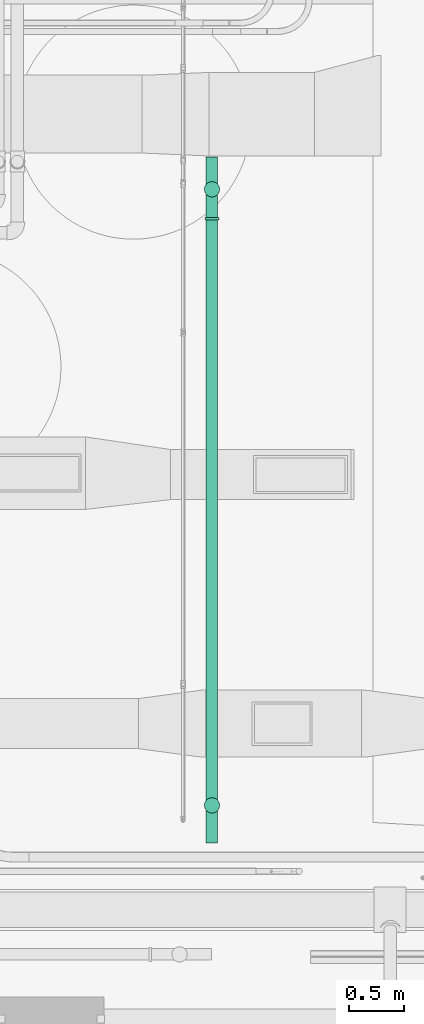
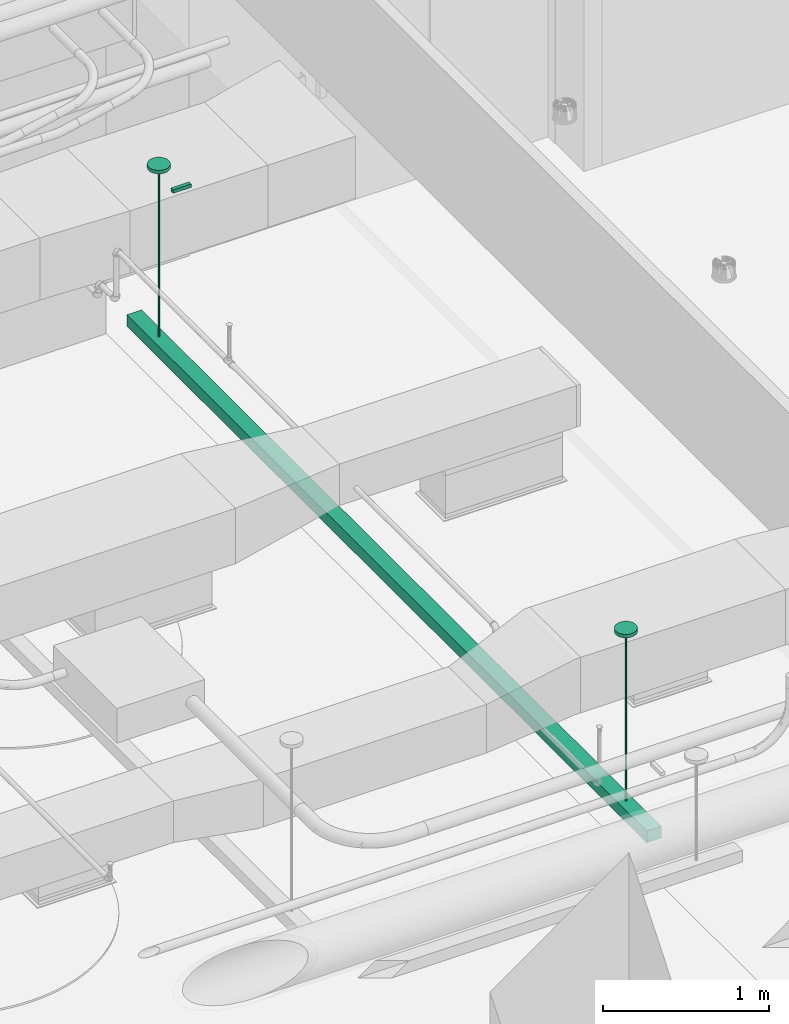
# One storey, part 30 of 108: 1 light fixture.
"""IFC4 building model written with IfcOpenShell, lengths in feet."""

from ifc_helpers import new_model, entity, si_unit, converted_unit, derived_unit, direction, frame, origin, place, context, subcontext, project, spatial, source, transform, mapped, material, type_object, type_shapes, element, save


model = new_model("IFC4")

# Units and contexts
model_context = context("Model", 3, precision=0.0001, world=origin(), true_north=direction((6.12303176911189e-17, 1.0)))
body_context = subcontext(model_context, "Body", "Model", "MODEL_VIEW")
ifc_project = project(units=[converted_unit("LENGTHUNIT", "FOOT", entity("IfcRatioMeasure", 0.3048), si_unit("LENGTHUNIT", "METRE"), dimensions=[1, 0, 0, 0, 0, 0, 0]), converted_unit("AREAUNIT", "SQUARE FOOT", entity("IfcRatioMeasure", 0.09290304), si_unit("AREAUNIT", "SQUARE_METRE"), dimensions=[2, 0, 0, 0, 0, 0, 0]), converted_unit("VOLUMEUNIT", "CUBIC FOOT", entity("IfcRatioMeasure", 0.028316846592), si_unit("VOLUMEUNIT", "CUBIC_METRE"), dimensions=[3, 0, 0, 0, 0, 0, 0]), converted_unit("PLANEANGLEUNIT", "DEGREE", entity("IfcRatioMeasure", 0.0174532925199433), si_unit("PLANEANGLEUNIT", "RADIAN"), dimensions=[0, 0, 0, 0, 0, 0, 0]), si_unit("MASSUNIT", "GRAM", prefix="KILO"), derived_unit("MASSDENSITYUNIT", [(si_unit("MASSUNIT", "GRAM", prefix="KILO"), 1), (si_unit("LENGTHUNIT", "METRE"), -3)]), si_unit("TIMEUNIT", "SECOND"), si_unit("FREQUENCYUNIT", "HERTZ"), si_unit("THERMODYNAMICTEMPERATUREUNIT", "DEGREE_CELSIUS"), derived_unit("THERMALTRANSMITTANCEUNIT", [(si_unit("MASSUNIT", "GRAM", prefix="KILO"), 1), (si_unit("THERMODYNAMICTEMPERATUREUNIT", "KELVIN"), -1), (si_unit("TIMEUNIT", "SECOND"), -3)]), derived_unit("VOLUMETRICFLOWRATEUNIT", [(si_unit("LENGTHUNIT", "METRE"), 3), (si_unit("TIMEUNIT", "SECOND"), -1)]), si_unit("ELECTRICCURRENTUNIT", "AMPERE"), si_unit("ELECTRICVOLTAGEUNIT", "VOLT"), si_unit("POWERUNIT", "WATT"), si_unit("FORCEUNIT", "NEWTON"), si_unit("ILLUMINANCEUNIT", "LUX"), si_unit("LUMINOUSFLUXUNIT", "LUMEN"), si_unit("LUMINOUSINTENSITYUNIT", "CANDELA"), derived_unit("USERDEFINED", [(si_unit("MASSUNIT", "GRAM", prefix="KILO"), -1), (si_unit("LENGTHUNIT", "METRE"), -2), (si_unit("TIMEUNIT", "SECOND"), 3), (si_unit("LUMINOUSFLUXUNIT", "LUMEN"), 1)]), derived_unit("LINEARVELOCITYUNIT", [(si_unit("LENGTHUNIT", "METRE"), 1), (si_unit("TIMEUNIT", "SECOND"), -1)]), si_unit("PRESSUREUNIT", "PASCAL"), derived_unit("USERDEFINED", [(si_unit("LENGTHUNIT", "METRE"), -2), (si_unit("MASSUNIT", "GRAM", prefix="KILO"), 1), (si_unit("TIMEUNIT", "SECOND"), -2)])], contexts=[model_context])

# Site, building, storey
site_placement = place(None, origin())
site = spatial("IfcSite", under=ifc_project, at=site_placement, Name="Default", CompositionType="ELEMENT")
building_placement = place(site_placement, origin())
building = spatial("IfcBuilding", under=site, at=building_placement, CompositionType="ELEMENT")
storey_placement = place(building_placement, frame((0.0, 0.0, 168.0)))
storey = spatial("IfcBuildingStorey", under=building, at=storey_placement, Name="Level 15", CompositionType="ELEMENT", Elevation=168.0)

# Light fixture
ifc_material = material(Name="Lighting Proxy", Category="System")
light_fixture_type = type_object("IfcLightFixtureType", Name="20' 8\"", PredefinedType="NOTDEFINED", material=ifc_material)
cartesian_point_1 = entity("IfcCartesianPoint", [0.891666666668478, 0.23440049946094, 4.43794169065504])
vertex_point_1 = entity("IfcVertexPoint", cartesian_point_1)
cartesian_point_2 = entity("IfcCartesianPoint", [1.35000000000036, 0.23440049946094, 4.43794169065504])
vertex_point_2 = entity("IfcVertexPoint", cartesian_point_2)
cartesian_point_3 = entity("IfcCartesianPoint", [1.12083333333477, 0.23440049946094, 4.43794169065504])
ifc_direction_1 = entity("IfcDirection", [0.0, 0.0, -1.0])
ifc_direction_2 = entity("IfcDirection", [1.0, 0.0, 0.0])
edge_curve_1 = entity("IfcEdgeCurve", vertex_point_1, vertex_point_2, entity("IfcTrimmedCurve", entity("IfcCircle", entity("IfcAxis2Placement3D", cartesian_point_3, ifc_direction_1, ifc_direction_2), 0.22916666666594), [cartesian_point_1], [cartesian_point_2], True, "CARTESIAN"), True)
cartesian_point_4 = entity("IfcCartesianPoint", [1.35000000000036, 0.234400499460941, 4.35387752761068])
vertex_point_3 = entity("IfcVertexPoint", cartesian_point_4)
edge_curve_2 = entity("IfcEdgeCurve", vertex_point_2, vertex_point_3, entity("IfcTrimmedCurve", entity("IfcLine", cartesian_point_2, entity("IfcVector", ifc_direction_1, 1.0)), [cartesian_point_2], [cartesian_point_4], True, "CARTESIAN"), True)
cartesian_point_5 = entity("IfcCartesianPoint", [0.891666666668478, 0.234400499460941, 4.35387752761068])
vertex_point_4 = entity("IfcVertexPoint", cartesian_point_5)
cartesian_point_6 = entity("IfcCartesianPoint", [1.12083333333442, 0.234400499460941, 4.35387752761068])
ifc_direction_3 = entity("IfcDirection", [0.0, 0.0, 1.0])
edge_curve_3 = entity("IfcEdgeCurve", vertex_point_3, vertex_point_4, entity("IfcTrimmedCurve", entity("IfcCircle", entity("IfcAxis2Placement3D", cartesian_point_6, ifc_direction_3, ifc_direction_2), 0.22916666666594), [cartesian_point_4], [cartesian_point_5], True, "CARTESIAN"), True)
edge_curve_4 = entity("IfcEdgeCurve", vertex_point_4, vertex_point_1, entity("IfcTrimmedCurve", entity("IfcLine", cartesian_point_5, entity("IfcVector", ifc_direction_3, 1.0)), [cartesian_point_5], [cartesian_point_1], True, "CARTESIAN"), True)
cartesian_point_7 = entity("IfcCartesianPoint", [1.12083333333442, 0.234400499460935, 4.75044169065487])
edge_curve_5 = entity("IfcEdgeCurve", vertex_point_2, vertex_point_1, entity("IfcTrimmedCurve", entity("IfcCircle", entity("IfcAxis2Placement3D", cartesian_point_3, ifc_direction_1, ifc_direction_2), 0.22916666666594), [cartesian_point_2], [cartesian_point_1], True, "CARTESIAN"), True)
edge_curve_6 = entity("IfcEdgeCurve", vertex_point_4, vertex_point_3, entity("IfcTrimmedCurve", entity("IfcCircle", entity("IfcAxis2Placement3D", cartesian_point_6, ifc_direction_3, ifc_direction_2), 0.22916666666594), [cartesian_point_5], [cartesian_point_4], True, "CARTESIAN"), True)
cartesian_point_8 = entity("IfcCartesianPoint", [1.14166666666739, 0.234400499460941, 4.35387752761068])
vertex_point_5 = entity("IfcVertexPoint", cartesian_point_8)
ifc_direction_4 = entity("IfcDirection", [-1.0, 0.0, 0.0])
edge_curve_7 = entity("IfcEdgeCurve", vertex_point_3, vertex_point_5, entity("IfcTrimmedCurve", entity("IfcLine", cartesian_point_4, entity("IfcVector", ifc_direction_4, 1.0)), [cartesian_point_4], [cartesian_point_8], True, "CARTESIAN"), True)
cartesian_point_9 = entity("IfcCartesianPoint", [1.10000000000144, 0.234400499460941, 4.35387752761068])
vertex_point_6 = entity("IfcVertexPoint", cartesian_point_9)
edge_curve_8 = entity("IfcEdgeCurve", vertex_point_5, vertex_point_6, entity("IfcTrimmedCurve", entity("IfcCircle", entity("IfcAxis2Placement3D", cartesian_point_6, ifc_direction_3, ifc_direction_2), 0.0208333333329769), [cartesian_point_8], [cartesian_point_9], True, "CARTESIAN"), True)
edge_curve_9 = entity("IfcEdgeCurve", vertex_point_6, vertex_point_4, entity("IfcTrimmedCurve", entity("IfcLine", cartesian_point_9, entity("IfcVector", ifc_direction_4, 1.0)), [cartesian_point_9], [cartesian_point_5], True, "CARTESIAN"), True)
edge_curve_10 = entity("IfcEdgeCurve", vertex_point_6, vertex_point_5, entity("IfcTrimmedCurve", entity("IfcCircle", entity("IfcAxis2Placement3D", cartesian_point_6, ifc_direction_3, ifc_direction_2), 0.0208333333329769), [cartesian_point_9], [cartesian_point_8], True, "CARTESIAN"), True)
cartesian_point_10 = entity("IfcCartesianPoint", [1.14166666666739, 0.234400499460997, 0.281250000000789])
vertex_point_7 = entity("IfcVertexPoint", cartesian_point_10)
edge_curve_11 = entity("IfcEdgeCurve", vertex_point_5, vertex_point_7, entity("IfcTrimmedCurve", entity("IfcLine", cartesian_point_8, entity("IfcVector", ifc_direction_1, 1.0)), [cartesian_point_8], [cartesian_point_10], True, "CARTESIAN"), True)
cartesian_point_11 = entity("IfcCartesianPoint", [1.10000000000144, 0.234400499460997, 0.281250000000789])
vertex_point_8 = entity("IfcVertexPoint", cartesian_point_11)
cartesian_point_12 = entity("IfcCartesianPoint", [1.12083333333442, 0.234400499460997, 0.281250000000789])
edge_curve_12 = entity("IfcEdgeCurve", vertex_point_7, vertex_point_8, entity("IfcTrimmedCurve", entity("IfcCircle", entity("IfcAxis2Placement3D", cartesian_point_12, ifc_direction_3, ifc_direction_2), 0.0208333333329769), [cartesian_point_10], [cartesian_point_11], True, "CARTESIAN"), True)
edge_curve_13 = entity("IfcEdgeCurve", vertex_point_8, vertex_point_6, entity("IfcTrimmedCurve", entity("IfcLine", cartesian_point_11, entity("IfcVector", ifc_direction_3, 1.0)), [cartesian_point_11], [cartesian_point_9], True, "CARTESIAN"), True)
edge_curve_14 = entity("IfcEdgeCurve", vertex_point_8, vertex_point_7, entity("IfcTrimmedCurve", entity("IfcCircle", entity("IfcAxis2Placement3D", cartesian_point_12, ifc_direction_3, ifc_direction_2), 0.0208333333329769), [cartesian_point_11], [cartesian_point_10], True, "CARTESIAN"), True)
vertex_point_9 = entity("IfcVertexPoint", cartesian_point_12)
edge_curve_15 = entity("IfcEdgeCurve", vertex_point_7, vertex_point_9, entity("IfcTrimmedCurve", entity("IfcLine", cartesian_point_10, entity("IfcVector", ifc_direction_4, 1.0)), [cartesian_point_10], [cartesian_point_12], True, "CARTESIAN"), True)
edge_curve_16 = entity("IfcEdgeCurve", vertex_point_9, vertex_point_8, entity("IfcTrimmedCurve", entity("IfcLine", cartesian_point_12, entity("IfcVector", ifc_direction_4, 1.0)), [cartesian_point_12], [cartesian_point_11], True, "CARTESIAN"), True)
vertex_point_10 = entity("IfcVertexPoint", cartesian_point_3)
edge_curve_17 = entity("IfcEdgeCurve", vertex_point_10, vertex_point_2, entity("IfcTrimmedCurve", entity("IfcLine", cartesian_point_3, entity("IfcVector", ifc_direction_2, 1.0)), [cartesian_point_3], [cartesian_point_2], True, "CARTESIAN"), True)
edge_curve_18 = entity("IfcEdgeCurve", vertex_point_1, vertex_point_10, entity("IfcTrimmedCurve", entity("IfcLine", cartesian_point_1, entity("IfcVector", ifc_direction_2, 1.0)), [cartesian_point_1], [cartesian_point_3], True, "CARTESIAN"), True)
cartesian_point_13 = entity("IfcCartesianPoint", [19.7749999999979, 0.23440049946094, 4.43794169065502])
vertex_point_11 = entity("IfcVertexPoint", cartesian_point_13)
cartesian_point_14 = entity("IfcCartesianPoint", [19.3166666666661, 0.23440049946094, 4.43794169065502])
vertex_point_12 = entity("IfcVertexPoint", cartesian_point_14)
cartesian_point_15 = entity("IfcCartesianPoint", [19.5458333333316, 0.23440049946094, 4.43794169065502])
ifc_direction_5 = entity("IfcDirection", [0.0, 0.0, 1.0])
ifc_direction_6 = entity("IfcDirection", [-1.0, 0.0, 0.0])
edge_curve_19 = entity("IfcEdgeCurve", vertex_point_11, vertex_point_12, entity("IfcTrimmedCurve", entity("IfcCircle", entity("IfcAxis2Placement3D", cartesian_point_15, ifc_direction_5, ifc_direction_6), 0.229166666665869), [cartesian_point_13], [cartesian_point_14], True, "CARTESIAN"), True)
vertex_point_13 = entity("IfcVertexPoint", cartesian_point_15)
ifc_direction_7 = entity("IfcDirection", [1.0, 0.0, 0.0])
edge_curve_20 = entity("IfcEdgeCurve", vertex_point_12, vertex_point_13, entity("IfcTrimmedCurve", entity("IfcLine", cartesian_point_14, entity("IfcVector", ifc_direction_7, 1.0)), [cartesian_point_14], [cartesian_point_15], True, "CARTESIAN"), True)
edge_curve_21 = entity("IfcEdgeCurve", vertex_point_13, vertex_point_11, entity("IfcTrimmedCurve", entity("IfcLine", cartesian_point_15, entity("IfcVector", ifc_direction_7, 1.0)), [cartesian_point_15], [cartesian_point_13], True, "CARTESIAN"), True)
edge_curve_22 = entity("IfcEdgeCurve", vertex_point_12, vertex_point_11, entity("IfcTrimmedCurve", entity("IfcCircle", entity("IfcAxis2Placement3D", cartesian_point_15, ifc_direction_5, ifc_direction_6), 0.229166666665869), [cartesian_point_14], [cartesian_point_13], True, "CARTESIAN"), True)
cartesian_point_16 = entity("IfcCartesianPoint", [19.7749999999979, 0.234400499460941, 4.35387752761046])
vertex_point_14 = entity("IfcVertexPoint", cartesian_point_16)
cartesian_point_17 = entity("IfcCartesianPoint", [19.3166666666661, 0.234400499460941, 4.35387752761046])
vertex_point_15 = entity("IfcVertexPoint", cartesian_point_17)
cartesian_point_18 = entity("IfcCartesianPoint", [19.545833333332, 0.234400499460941, 4.35387752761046])
edge_curve_23 = entity("IfcEdgeCurve", vertex_point_14, vertex_point_15, entity("IfcTrimmedCurve", entity("IfcCircle", entity("IfcAxis2Placement3D", cartesian_point_18, ifc_direction_5, ifc_direction_6), 0.229166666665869), [cartesian_point_16], [cartesian_point_17], True, "CARTESIAN"), True)
edge_curve_24 = entity("IfcEdgeCurve", vertex_point_15, vertex_point_12, entity("IfcTrimmedCurve", entity("IfcLine", cartesian_point_17, entity("IfcVector", ifc_direction_5, 1.0)), [cartesian_point_17], [cartesian_point_14], True, "CARTESIAN"), True)
ifc_direction_8 = entity("IfcDirection", [0.0, 0.0, -1.0])
edge_curve_25 = entity("IfcEdgeCurve", vertex_point_11, vertex_point_14, entity("IfcTrimmedCurve", entity("IfcLine", cartesian_point_13, entity("IfcVector", ifc_direction_8, 1.0)), [cartesian_point_13], [cartesian_point_16], True, "CARTESIAN"), True)
cartesian_point_19 = entity("IfcCartesianPoint", [19.545833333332, 0.234400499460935, 4.75044169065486])
edge_curve_26 = entity("IfcEdgeCurve", vertex_point_15, vertex_point_14, entity("IfcTrimmedCurve", entity("IfcCircle", entity("IfcAxis2Placement3D", cartesian_point_18, ifc_direction_5, ifc_direction_6), 0.229166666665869), [cartesian_point_17], [cartesian_point_16], True, "CARTESIAN"), True)
cartesian_point_20 = entity("IfcCartesianPoint", [19.5666666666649, 0.234400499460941, 4.35387752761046])
vertex_point_16 = entity("IfcVertexPoint", cartesian_point_20)
cartesian_point_21 = entity("IfcCartesianPoint", [19.5249999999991, 0.234400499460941, 4.35387752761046])
vertex_point_17 = entity("IfcVertexPoint", cartesian_point_21)
edge_curve_27 = entity("IfcEdgeCurve", vertex_point_16, vertex_point_17, entity("IfcTrimmedCurve", entity("IfcCircle", entity("IfcAxis2Placement3D", cartesian_point_18, ifc_direction_5, ifc_direction_6), 0.0208333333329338), [cartesian_point_20], [cartesian_point_21], True, "CARTESIAN"), True)
edge_curve_28 = entity("IfcEdgeCurve", vertex_point_17, vertex_point_15, entity("IfcTrimmedCurve", entity("IfcLine", cartesian_point_21, entity("IfcVector", ifc_direction_6, 1.0)), [cartesian_point_21], [cartesian_point_17], True, "CARTESIAN"), True)
edge_curve_29 = entity("IfcEdgeCurve", vertex_point_14, vertex_point_16, entity("IfcTrimmedCurve", entity("IfcLine", cartesian_point_16, entity("IfcVector", ifc_direction_6, 1.0)), [cartesian_point_16], [cartesian_point_20], True, "CARTESIAN"), True)
edge_curve_30 = entity("IfcEdgeCurve", vertex_point_17, vertex_point_16, entity("IfcTrimmedCurve", entity("IfcCircle", entity("IfcAxis2Placement3D", cartesian_point_18, ifc_direction_5, ifc_direction_6), 0.0208333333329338), [cartesian_point_21], [cartesian_point_20], True, "CARTESIAN"), True)
cartesian_point_22 = entity("IfcCartesianPoint", [19.5666666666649, 0.234400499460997, 0.281250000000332])
vertex_point_18 = entity("IfcVertexPoint", cartesian_point_22)
cartesian_point_23 = entity("IfcCartesianPoint", [19.5249999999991, 0.234400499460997, 0.281250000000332])
vertex_point_19 = entity("IfcVertexPoint", cartesian_point_23)
cartesian_point_24 = entity("IfcCartesianPoint", [19.5458333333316, 0.234400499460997, 0.281250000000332])
edge_curve_31 = entity("IfcEdgeCurve", vertex_point_18, vertex_point_19, entity("IfcTrimmedCurve", entity("IfcCircle", entity("IfcAxis2Placement3D", cartesian_point_24, ifc_direction_5, ifc_direction_6), 0.0208333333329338), [cartesian_point_22], [cartesian_point_23], True, "CARTESIAN"), True)
edge_curve_32 = entity("IfcEdgeCurve", vertex_point_19, vertex_point_17, entity("IfcTrimmedCurve", entity("IfcLine", cartesian_point_23, entity("IfcVector", ifc_direction_5, 1.0)), [cartesian_point_23], [cartesian_point_21], True, "CARTESIAN"), True)
edge_curve_33 = entity("IfcEdgeCurve", vertex_point_16, vertex_point_18, entity("IfcTrimmedCurve", entity("IfcLine", cartesian_point_20, entity("IfcVector", ifc_direction_8, 1.0)), [cartesian_point_20], [cartesian_point_22], True, "CARTESIAN"), True)
edge_curve_34 = entity("IfcEdgeCurve", vertex_point_19, vertex_point_18, entity("IfcTrimmedCurve", entity("IfcCircle", entity("IfcAxis2Placement3D", cartesian_point_24, ifc_direction_5, ifc_direction_6), 0.0208333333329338), [cartesian_point_23], [cartesian_point_22], True, "CARTESIAN"), True)
vertex_point_20 = entity("IfcVertexPoint", cartesian_point_24)
edge_curve_35 = entity("IfcEdgeCurve", vertex_point_20, vertex_point_19, entity("IfcTrimmedCurve", entity("IfcLine", cartesian_point_24, entity("IfcVector", ifc_direction_6, 1.0)), [cartesian_point_24], [cartesian_point_23], True, "CARTESIAN"), True)
edge_curve_36 = entity("IfcEdgeCurve", vertex_point_18, vertex_point_20, entity("IfcTrimmedCurve", entity("IfcLine", cartesian_point_22, entity("IfcVector", ifc_direction_6, 1.0)), [cartesian_point_22], [cartesian_point_24], True, "CARTESIAN"), True)
cartesian_point_25 = entity("IfcCartesianPoint", [18.7083333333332, 0.0260671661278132, 4.43794169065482])
vertex_point_21 = entity("IfcVertexPoint", cartesian_point_25)
cartesian_point_26 = entity("IfcCartesianPoint", [18.7083333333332, 0.44273383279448, 4.43794169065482])
vertex_point_22 = entity("IfcVertexPoint", cartesian_point_26)
ifc_direction_9 = entity("IfcDirection", [0.0, 1.0, 0.0])
edge_curve_37 = entity("IfcEdgeCurve", vertex_point_21, vertex_point_22, entity("IfcTrimmedCurve", entity("IfcLine", cartesian_point_25, entity("IfcVector", ifc_direction_9, 1.0)), [cartesian_point_25], [cartesian_point_26], True, "CARTESIAN"), True)
cartesian_point_27 = entity("IfcCartesianPoint", [18.6249999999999, 0.44273383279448, 4.43794169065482])
vertex_point_23 = entity("IfcVertexPoint", cartesian_point_27)
ifc_direction_10 = entity("IfcDirection", [-1.0, 0.0, 0.0])
edge_curve_38 = entity("IfcEdgeCurve", vertex_point_22, vertex_point_23, entity("IfcTrimmedCurve", entity("IfcLine", cartesian_point_26, entity("IfcVector", ifc_direction_10, 1.0)), [cartesian_point_26], [cartesian_point_27], True, "CARTESIAN"), True)
cartesian_point_28 = entity("IfcCartesianPoint", [18.6249999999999, 0.0260671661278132, 4.43794169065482])
vertex_point_24 = entity("IfcVertexPoint", cartesian_point_28)
ifc_direction_11 = entity("IfcDirection", [0.0, -1.0, 0.0])
edge_curve_39 = entity("IfcEdgeCurve", vertex_point_23, vertex_point_24, entity("IfcTrimmedCurve", entity("IfcLine", cartesian_point_27, entity("IfcVector", ifc_direction_11, 1.0)), [cartesian_point_27], [cartesian_point_28], True, "CARTESIAN"), True)
ifc_direction_12 = entity("IfcDirection", [1.0, 0.0, 0.0])
edge_curve_40 = entity("IfcEdgeCurve", vertex_point_24, vertex_point_21, entity("IfcTrimmedCurve", entity("IfcLine", cartesian_point_28, entity("IfcVector", ifc_direction_12, 1.0)), [cartesian_point_28], [cartesian_point_25], True, "CARTESIAN"), True)
ifc_direction_13 = entity("IfcDirection", [0.0, 0.0, 1.0])
cartesian_point_29 = entity("IfcCartesianPoint", [18.7083333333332, 0.0260671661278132, 4.35460835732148])
vertex_point_25 = entity("IfcVertexPoint", cartesian_point_29)
cartesian_point_30 = entity("IfcCartesianPoint", [18.6249999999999, 0.0260671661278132, 4.35460835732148])
vertex_point_26 = entity("IfcVertexPoint", cartesian_point_30)
edge_curve_41 = entity("IfcEdgeCurve", vertex_point_25, vertex_point_26, entity("IfcTrimmedCurve", entity("IfcLine", cartesian_point_29, entity("IfcVector", ifc_direction_10, 1.0)), [cartesian_point_29], [cartesian_point_30], True, "CARTESIAN"), True)
cartesian_point_31 = entity("IfcCartesianPoint", [18.6249999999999, 0.44273383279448, 4.35460835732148])
vertex_point_27 = entity("IfcVertexPoint", cartesian_point_31)
edge_curve_42 = entity("IfcEdgeCurve", vertex_point_26, vertex_point_27, entity("IfcTrimmedCurve", entity("IfcLine", cartesian_point_30, entity("IfcVector", ifc_direction_9, 1.0)), [cartesian_point_30], [cartesian_point_31], True, "CARTESIAN"), True)
cartesian_point_32 = entity("IfcCartesianPoint", [18.7083333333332, 0.44273383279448, 4.35460835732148])
vertex_point_28 = entity("IfcVertexPoint", cartesian_point_32)
edge_curve_43 = entity("IfcEdgeCurve", vertex_point_27, vertex_point_28, entity("IfcTrimmedCurve", entity("IfcLine", cartesian_point_31, entity("IfcVector", ifc_direction_12, 1.0)), [cartesian_point_31], [cartesian_point_32], True, "CARTESIAN"), True)
edge_curve_44 = entity("IfcEdgeCurve", vertex_point_28, vertex_point_25, entity("IfcTrimmedCurve", entity("IfcLine", cartesian_point_32, entity("IfcVector", ifc_direction_11, 1.0)), [cartesian_point_32], [cartesian_point_29], True, "CARTESIAN"), True)
ifc_direction_14 = entity("IfcDirection", [0.0, 0.0, -1.0])
edge_curve_45 = entity("IfcEdgeCurve", vertex_point_21, vertex_point_25, entity("IfcTrimmedCurve", entity("IfcLine", cartesian_point_25, entity("IfcVector", ifc_direction_14, 1.0)), [cartesian_point_25], [cartesian_point_29], True, "CARTESIAN"), True)
edge_curve_46 = entity("IfcEdgeCurve", vertex_point_28, vertex_point_22, entity("IfcTrimmedCurve", entity("IfcLine", cartesian_point_26, entity("IfcVector", ifc_direction_13, 1.0)), [cartesian_point_32], [cartesian_point_26], True, "CARTESIAN"), True)
edge_curve_47 = entity("IfcEdgeCurve", vertex_point_27, vertex_point_23, entity("IfcTrimmedCurve", entity("IfcLine", cartesian_point_27, entity("IfcVector", ifc_direction_13, 1.0)), [cartesian_point_31], [cartesian_point_27], True, "CARTESIAN"), True)
edge_curve_48 = entity("IfcEdgeCurve", vertex_point_26, vertex_point_24, entity("IfcTrimmedCurve", entity("IfcLine", cartesian_point_28, entity("IfcVector", ifc_direction_13, 1.0)), [cartesian_point_30], [cartesian_point_28], True, "CARTESIAN"), True)
cartesian_point_33 = entity("IfcCartesianPoint", [20.507260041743, 0.40656789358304, 0.28125000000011])
vertex_point_29 = entity("IfcVertexPoint", cartesian_point_33)
cartesian_point_34 = entity("IfcCartesianPoint", [0.0, 0.40656789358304, 0.281250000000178])
vertex_point_30 = entity("IfcVertexPoint", cartesian_point_34)
ifc_direction_15 = entity("IfcDirection", [-1.0, 0.0, 0.0])
edge_curve_49 = entity("IfcEdgeCurve", vertex_point_29, vertex_point_30, entity("IfcTrimmedCurve", entity("IfcLine", cartesian_point_33, entity("IfcVector", ifc_direction_15, 1.0)), [cartesian_point_33], [cartesian_point_34], True, "CARTESIAN"), True)
cartesian_point_35 = entity("IfcCartesianPoint", [0.0, 0.0732345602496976, 0.281250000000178])
vertex_point_31 = entity("IfcVertexPoint", cartesian_point_35)
ifc_direction_16 = entity("IfcDirection", [0.0, -1.0, 0.0])
edge_curve_50 = entity("IfcEdgeCurve", vertex_point_30, vertex_point_31, entity("IfcTrimmedCurve", entity("IfcLine", cartesian_point_34, entity("IfcVector", ifc_direction_16, 1.0)), [cartesian_point_34], [cartesian_point_35], True, "CARTESIAN"), True)
cartesian_point_36 = entity("IfcCartesianPoint", [20.507260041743, 0.0732345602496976, 0.28125000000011])
vertex_point_32 = entity("IfcVertexPoint", cartesian_point_36)
ifc_direction_17 = entity("IfcDirection", [1.0, 0.0, 0.0])
edge_curve_51 = entity("IfcEdgeCurve", vertex_point_31, vertex_point_32, entity("IfcTrimmedCurve", entity("IfcLine", cartesian_point_35, entity("IfcVector", ifc_direction_17, 1.0)), [cartesian_point_35], [cartesian_point_36], True, "CARTESIAN"), True)
ifc_direction_18 = entity("IfcDirection", [0.0, 1.0, 0.0])
edge_curve_52 = entity("IfcEdgeCurve", vertex_point_32, vertex_point_29, entity("IfcTrimmedCurve", entity("IfcLine", cartesian_point_36, entity("IfcVector", ifc_direction_18, 1.0)), [cartesian_point_36], [cartesian_point_33], True, "CARTESIAN"), True)
ifc_direction_19 = entity("IfcDirection", [0.0, 0.0, 1.0])
cartesian_point_37 = entity("IfcCartesianPoint", [20.507260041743, 0.40656789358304, 0.0])
vertex_point_33 = entity("IfcVertexPoint", cartesian_point_37)
cartesian_point_38 = entity("IfcCartesianPoint", [20.507260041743, 0.0732345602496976, 0.0])
vertex_point_34 = entity("IfcVertexPoint", cartesian_point_38)
edge_curve_53 = entity("IfcEdgeCurve", vertex_point_33, vertex_point_34, entity("IfcTrimmedCurve", entity("IfcLine", cartesian_point_37, entity("IfcVector", ifc_direction_16, 1.0)), [cartesian_point_37], [cartesian_point_38], True, "CARTESIAN"), True)
cartesian_point_39 = entity("IfcCartesianPoint", [0.0, 0.0732345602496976, 0.0])
vertex_point_35 = entity("IfcVertexPoint", cartesian_point_39)
edge_curve_54 = entity("IfcEdgeCurve", vertex_point_34, vertex_point_35, entity("IfcTrimmedCurve", entity("IfcLine", cartesian_point_38, entity("IfcVector", ifc_direction_15, 1.0)), [cartesian_point_38], [cartesian_point_39], True, "CARTESIAN"), True)
cartesian_point_40 = entity("IfcCartesianPoint", [0.0, 0.40656789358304, 0.0])
vertex_point_36 = entity("IfcVertexPoint", cartesian_point_40)
edge_curve_55 = entity("IfcEdgeCurve", vertex_point_35, vertex_point_36, entity("IfcTrimmedCurve", entity("IfcLine", cartesian_point_39, entity("IfcVector", ifc_direction_18, 1.0)), [cartesian_point_39], [cartesian_point_40], True, "CARTESIAN"), True)
edge_curve_56 = entity("IfcEdgeCurve", vertex_point_36, vertex_point_33, entity("IfcTrimmedCurve", entity("IfcLine", cartesian_point_40, entity("IfcVector", ifc_direction_17, 1.0)), [cartesian_point_40], [cartesian_point_37], True, "CARTESIAN"), True)
ifc_direction_20 = entity("IfcDirection", [0.0, 0.0, -1.0])
edge_curve_57 = entity("IfcEdgeCurve", vertex_point_29, vertex_point_33, entity("IfcTrimmedCurve", entity("IfcLine", cartesian_point_33, entity("IfcVector", ifc_direction_20, 1.0)), [cartesian_point_33], [cartesian_point_37], True, "CARTESIAN"), True)
edge_curve_58 = entity("IfcEdgeCurve", vertex_point_36, vertex_point_30, entity("IfcTrimmedCurve", entity("IfcLine", cartesian_point_34, entity("IfcVector", ifc_direction_19, 1.0)), [cartesian_point_40], [cartesian_point_34], True, "CARTESIAN"), True)
edge_curve_59 = entity("IfcEdgeCurve", vertex_point_31, vertex_point_35, entity("IfcTrimmedCurve", entity("IfcLine", cartesian_point_35, entity("IfcVector", ifc_direction_20, 1.0)), [cartesian_point_35], [cartesian_point_39], True, "CARTESIAN"), True)
edge_curve_60 = entity("IfcEdgeCurve", vertex_point_34, vertex_point_32, entity("IfcTrimmedCurve", entity("IfcLine", cartesian_point_36, entity("IfcVector", ifc_direction_19, 1.0)), [cartesian_point_38], [cartesian_point_36], True, "CARTESIAN"), True)
shared_shape = source(origin(), body_context, "Body", "AdvancedBrep", [
    entity("IfcAdvancedBrep", entity("IfcClosedShell", [entity("IfcAdvancedFace", [entity("IfcFaceOuterBound", entity("IfcEdgeLoop", [entity("IfcOrientedEdge", None, None, edge_curve_1, True), entity("IfcOrientedEdge", None, None, edge_curve_2, True), entity("IfcOrientedEdge", None, None, edge_curve_3, True), entity("IfcOrientedEdge", None, None, edge_curve_4, True)]), True)], entity("IfcCylindricalSurface", entity("IfcAxis2Placement3D", cartesian_point_7, ifc_direction_3, ifc_direction_2), 0.22916666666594), True), entity("IfcAdvancedFace", [entity("IfcFaceOuterBound", entity("IfcEdgeLoop", [entity("IfcOrientedEdge", None, None, edge_curve_5, True), entity("IfcOrientedEdge", None, None, edge_curve_4, False), entity("IfcOrientedEdge", None, None, edge_curve_6, True), entity("IfcOrientedEdge", None, None, edge_curve_2, False)]), True)], entity("IfcCylindricalSurface", entity("IfcAxis2Placement3D", cartesian_point_7, ifc_direction_3, ifc_direction_2), 0.22916666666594), True), entity("IfcAdvancedFace", [entity("IfcFaceOuterBound", entity("IfcEdgeLoop", [entity("IfcOrientedEdge", None, None, edge_curve_3, False), entity("IfcOrientedEdge", None, None, edge_curve_7, True), entity("IfcOrientedEdge", None, None, edge_curve_8, True), entity("IfcOrientedEdge", None, None, edge_curve_9, True)]), True)], entity("IfcPlane", entity("IfcAxis2Placement3D", cartesian_point_6, ifc_direction_1, ifc_direction_2)), True), entity("IfcAdvancedFace", [entity("IfcFaceOuterBound", entity("IfcEdgeLoop", [entity("IfcOrientedEdge", None, None, edge_curve_6, False), entity("IfcOrientedEdge", None, None, edge_curve_9, False), entity("IfcOrientedEdge", None, None, edge_curve_10, True), entity("IfcOrientedEdge", None, None, edge_curve_7, False)]), True)], entity("IfcPlane", entity("IfcAxis2Placement3D", cartesian_point_6, ifc_direction_1, ifc_direction_2)), True), entity("IfcAdvancedFace", [entity("IfcFaceOuterBound", entity("IfcEdgeLoop", [entity("IfcOrientedEdge", None, None, edge_curve_8, False), entity("IfcOrientedEdge", None, None, edge_curve_11, True), entity("IfcOrientedEdge", None, None, edge_curve_12, True), entity("IfcOrientedEdge", None, None, edge_curve_13, True)]), True)], entity("IfcCylindricalSurface", entity("IfcAxis2Placement3D", cartesian_point_7, ifc_direction_3, ifc_direction_2), 0.0208333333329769), True), entity("IfcAdvancedFace", [entity("IfcFaceOuterBound", entity("IfcEdgeLoop", [entity("IfcOrientedEdge", None, None, edge_curve_10, False), entity("IfcOrientedEdge", None, None, edge_curve_13, False), entity("IfcOrientedEdge", None, None, edge_curve_14, True), entity("IfcOrientedEdge", None, None, edge_curve_11, False)]), True)], entity("IfcCylindricalSurface", entity("IfcAxis2Placement3D", cartesian_point_7, ifc_direction_3, ifc_direction_2), 0.0208333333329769), True), entity("IfcAdvancedFace", [entity("IfcFaceOuterBound", entity("IfcEdgeLoop", [entity("IfcOrientedEdge", None, None, edge_curve_12, False), entity("IfcOrientedEdge", None, None, edge_curve_15, True), entity("IfcOrientedEdge", None, None, edge_curve_16, True)]), True)], entity("IfcPlane", entity("IfcAxis2Placement3D", cartesian_point_12, ifc_direction_1, ifc_direction_2)), True), entity("IfcAdvancedFace", [entity("IfcFaceOuterBound", entity("IfcEdgeLoop", [entity("IfcOrientedEdge", None, None, edge_curve_14, False), entity("IfcOrientedEdge", None, None, edge_curve_16, False), entity("IfcOrientedEdge", None, None, edge_curve_15, False)]), True)], entity("IfcPlane", entity("IfcAxis2Placement3D", cartesian_point_12, ifc_direction_1, ifc_direction_2)), True), entity("IfcAdvancedFace", [entity("IfcFaceOuterBound", entity("IfcEdgeLoop", [entity("IfcOrientedEdge", None, None, edge_curve_17, True), entity("IfcOrientedEdge", None, None, edge_curve_1, False), entity("IfcOrientedEdge", None, None, edge_curve_18, True)]), True)], entity("IfcPlane", entity("IfcAxis2Placement3D", cartesian_point_3, ifc_direction_3, ifc_direction_2)), True), entity("IfcAdvancedFace", [entity("IfcFaceOuterBound", entity("IfcEdgeLoop", [entity("IfcOrientedEdge", None, None, edge_curve_18, False), entity("IfcOrientedEdge", None, None, edge_curve_5, False), entity("IfcOrientedEdge", None, None, edge_curve_17, False)]), True)], entity("IfcPlane", entity("IfcAxis2Placement3D", cartesian_point_3, ifc_direction_3, ifc_direction_2)), True)])),
    entity("IfcAdvancedBrep", entity("IfcClosedShell", [entity("IfcAdvancedFace", [entity("IfcFaceOuterBound", entity("IfcEdgeLoop", [entity("IfcOrientedEdge", None, None, edge_curve_19, True), entity("IfcOrientedEdge", None, None, edge_curve_20, True), entity("IfcOrientedEdge", None, None, edge_curve_21, True)]), True)], entity("IfcPlane", entity("IfcAxis2Placement3D", cartesian_point_15, ifc_direction_5, ifc_direction_6)), True), entity("IfcAdvancedFace", [entity("IfcFaceOuterBound", entity("IfcEdgeLoop", [entity("IfcOrientedEdge", None, None, edge_curve_22, True), entity("IfcOrientedEdge", None, None, edge_curve_21, False), entity("IfcOrientedEdge", None, None, edge_curve_20, False)]), True)], entity("IfcPlane", entity("IfcAxis2Placement3D", cartesian_point_15, ifc_direction_5, ifc_direction_6)), True), entity("IfcAdvancedFace", [entity("IfcFaceOuterBound", entity("IfcEdgeLoop", [entity("IfcOrientedEdge", None, None, edge_curve_23, True), entity("IfcOrientedEdge", None, None, edge_curve_24, True), entity("IfcOrientedEdge", None, None, edge_curve_19, False), entity("IfcOrientedEdge", None, None, edge_curve_25, True)]), True)], entity("IfcCylindricalSurface", entity("IfcAxis2Placement3D", cartesian_point_19, ifc_direction_8, ifc_direction_6), 0.229166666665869), True), entity("IfcAdvancedFace", [entity("IfcFaceOuterBound", entity("IfcEdgeLoop", [entity("IfcOrientedEdge", None, None, edge_curve_26, True), entity("IfcOrientedEdge", None, None, edge_curve_25, False), entity("IfcOrientedEdge", None, None, edge_curve_22, False), entity("IfcOrientedEdge", None, None, edge_curve_24, False)]), True)], entity("IfcCylindricalSurface", entity("IfcAxis2Placement3D", cartesian_point_19, ifc_direction_8, ifc_direction_6), 0.229166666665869), True), entity("IfcAdvancedFace", [entity("IfcFaceOuterBound", entity("IfcEdgeLoop", [entity("IfcOrientedEdge", None, None, edge_curve_27, True), entity("IfcOrientedEdge", None, None, edge_curve_28, True), entity("IfcOrientedEdge", None, None, edge_curve_23, False), entity("IfcOrientedEdge", None, None, edge_curve_29, True)]), True)], entity("IfcPlane", entity("IfcAxis2Placement3D", cartesian_point_18, ifc_direction_8, ifc_direction_6)), True), entity("IfcAdvancedFace", [entity("IfcFaceOuterBound", entity("IfcEdgeLoop", [entity("IfcOrientedEdge", None, None, edge_curve_30, True), entity("IfcOrientedEdge", None, None, edge_curve_29, False), entity("IfcOrientedEdge", None, None, edge_curve_26, False), entity("IfcOrientedEdge", None, None, edge_curve_28, False)]), True)], entity("IfcPlane", entity("IfcAxis2Placement3D", cartesian_point_18, ifc_direction_8, ifc_direction_6)), True), entity("IfcAdvancedFace", [entity("IfcFaceOuterBound", entity("IfcEdgeLoop", [entity("IfcOrientedEdge", None, None, edge_curve_31, True), entity("IfcOrientedEdge", None, None, edge_curve_32, True), entity("IfcOrientedEdge", None, None, edge_curve_27, False), entity("IfcOrientedEdge", None, None, edge_curve_33, True)]), True)], entity("IfcCylindricalSurface", entity("IfcAxis2Placement3D", cartesian_point_19, ifc_direction_8, ifc_direction_6), 0.0208333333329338), True), entity("IfcAdvancedFace", [entity("IfcFaceOuterBound", entity("IfcEdgeLoop", [entity("IfcOrientedEdge", None, None, edge_curve_34, True), entity("IfcOrientedEdge", None, None, edge_curve_33, False), entity("IfcOrientedEdge", None, None, edge_curve_30, False), entity("IfcOrientedEdge", None, None, edge_curve_32, False)]), True)], entity("IfcCylindricalSurface", entity("IfcAxis2Placement3D", cartesian_point_19, ifc_direction_8, ifc_direction_6), 0.0208333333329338), True), entity("IfcAdvancedFace", [entity("IfcFaceOuterBound", entity("IfcEdgeLoop", [entity("IfcOrientedEdge", None, None, edge_curve_35, True), entity("IfcOrientedEdge", None, None, edge_curve_31, False), entity("IfcOrientedEdge", None, None, edge_curve_36, True)]), True)], entity("IfcPlane", entity("IfcAxis2Placement3D", cartesian_point_24, ifc_direction_8, ifc_direction_6)), True), entity("IfcAdvancedFace", [entity("IfcFaceOuterBound", entity("IfcEdgeLoop", [entity("IfcOrientedEdge", None, None, edge_curve_36, False), entity("IfcOrientedEdge", None, None, edge_curve_34, False), entity("IfcOrientedEdge", None, None, edge_curve_35, False)]), True)], entity("IfcPlane", entity("IfcAxis2Placement3D", cartesian_point_24, ifc_direction_8, ifc_direction_6)), True)])),
    entity("IfcAdvancedBrep", entity("IfcClosedShell", [entity("IfcAdvancedFace", [entity("IfcFaceOuterBound", entity("IfcEdgeLoop", [entity("IfcOrientedEdge", None, None, edge_curve_37, True), entity("IfcOrientedEdge", None, None, edge_curve_38, True), entity("IfcOrientedEdge", None, None, edge_curve_39, True), entity("IfcOrientedEdge", None, None, edge_curve_40, True)]), True)], entity("IfcPlane", entity("IfcAxis2Placement3D", cartesian_point_25, ifc_direction_13, ifc_direction_9)), True), entity("IfcAdvancedFace", [entity("IfcFaceOuterBound", entity("IfcEdgeLoop", [entity("IfcOrientedEdge", None, None, edge_curve_41, True), entity("IfcOrientedEdge", None, None, edge_curve_42, True), entity("IfcOrientedEdge", None, None, edge_curve_43, True), entity("IfcOrientedEdge", None, None, edge_curve_44, True)]), True)], entity("IfcPlane", entity("IfcAxis2Placement3D", cartesian_point_29, ifc_direction_14, ifc_direction_11)), True), entity("IfcAdvancedFace", [entity("IfcFaceOuterBound", entity("IfcEdgeLoop", [entity("IfcOrientedEdge", None, None, edge_curve_37, False), entity("IfcOrientedEdge", None, None, edge_curve_45, True), entity("IfcOrientedEdge", None, None, edge_curve_44, False), entity("IfcOrientedEdge", None, None, edge_curve_46, True)]), True)], entity("IfcPlane", entity("IfcAxis2Placement3D", cartesian_point_25, ifc_direction_12, ifc_direction_14)), True), entity("IfcAdvancedFace", [entity("IfcFaceOuterBound", entity("IfcEdgeLoop", [entity("IfcOrientedEdge", None, None, edge_curve_38, False), entity("IfcOrientedEdge", None, None, edge_curve_46, False), entity("IfcOrientedEdge", None, None, edge_curve_43, False), entity("IfcOrientedEdge", None, None, edge_curve_47, True)]), True)], entity("IfcPlane", entity("IfcAxis2Placement3D", cartesian_point_26, ifc_direction_9, ifc_direction_14)), True), entity("IfcAdvancedFace", [entity("IfcFaceOuterBound", entity("IfcEdgeLoop", [entity("IfcOrientedEdge", None, None, edge_curve_39, False), entity("IfcOrientedEdge", None, None, edge_curve_47, False), entity("IfcOrientedEdge", None, None, edge_curve_42, False), entity("IfcOrientedEdge", None, None, edge_curve_48, True)]), True)], entity("IfcPlane", entity("IfcAxis2Placement3D", cartesian_point_27, ifc_direction_10, ifc_direction_14)), True), entity("IfcAdvancedFace", [entity("IfcFaceOuterBound", entity("IfcEdgeLoop", [entity("IfcOrientedEdge", None, None, edge_curve_40, False), entity("IfcOrientedEdge", None, None, edge_curve_48, False), entity("IfcOrientedEdge", None, None, edge_curve_41, False), entity("IfcOrientedEdge", None, None, edge_curve_45, False)]), True)], entity("IfcPlane", entity("IfcAxis2Placement3D", cartesian_point_28, ifc_direction_11, ifc_direction_14)), True)])),
    entity("IfcAdvancedBrep", entity("IfcClosedShell", [entity("IfcAdvancedFace", [entity("IfcFaceOuterBound", entity("IfcEdgeLoop", [entity("IfcOrientedEdge", None, None, edge_curve_49, True), entity("IfcOrientedEdge", None, None, edge_curve_50, True), entity("IfcOrientedEdge", None, None, edge_curve_51, True), entity("IfcOrientedEdge", None, None, edge_curve_52, True)]), True)], entity("IfcPlane", entity("IfcAxis2Placement3D", cartesian_point_34, ifc_direction_19, ifc_direction_15)), True), entity("IfcAdvancedFace", [entity("IfcFaceOuterBound", entity("IfcEdgeLoop", [entity("IfcOrientedEdge", None, None, edge_curve_53, True), entity("IfcOrientedEdge", None, None, edge_curve_54, True), entity("IfcOrientedEdge", None, None, edge_curve_55, True), entity("IfcOrientedEdge", None, None, edge_curve_56, True)]), True)], entity("IfcPlane", entity("IfcAxis2Placement3D", cartesian_point_40, ifc_direction_20, ifc_direction_17)), True), entity("IfcAdvancedFace", [entity("IfcFaceOuterBound", entity("IfcEdgeLoop", [entity("IfcOrientedEdge", None, None, edge_curve_49, False), entity("IfcOrientedEdge", None, None, edge_curve_57, True), entity("IfcOrientedEdge", None, None, edge_curve_56, False), entity("IfcOrientedEdge", None, None, edge_curve_58, True)]), True)], entity("IfcPlane", entity("IfcAxis2Placement3D", cartesian_point_33, ifc_direction_18, ifc_direction_20)), True), entity("IfcAdvancedFace", [entity("IfcFaceOuterBound", entity("IfcEdgeLoop", [entity("IfcOrientedEdge", None, None, edge_curve_51, False), entity("IfcOrientedEdge", None, None, edge_curve_59, True), entity("IfcOrientedEdge", None, None, edge_curve_54, False), entity("IfcOrientedEdge", None, None, edge_curve_60, True)]), True)], entity("IfcPlane", entity("IfcAxis2Placement3D", cartesian_point_35, ifc_direction_16, ifc_direction_20)), True), entity("IfcAdvancedFace", [entity("IfcFaceOuterBound", entity("IfcEdgeLoop", [entity("IfcOrientedEdge", None, None, edge_curve_50, False), entity("IfcOrientedEdge", None, None, edge_curve_58, False), entity("IfcOrientedEdge", None, None, edge_curve_55, False), entity("IfcOrientedEdge", None, None, edge_curve_59, False)]), True)], entity("IfcPlane", entity("IfcAxis2Placement3D", cartesian_point_34, ifc_direction_15, ifc_direction_20)), True), entity("IfcAdvancedFace", [entity("IfcFaceOuterBound", entity("IfcEdgeLoop", [entity("IfcOrientedEdge", None, None, edge_curve_52, False), entity("IfcOrientedEdge", None, None, edge_curve_60, False), entity("IfcOrientedEdge", None, None, edge_curve_53, False), entity("IfcOrientedEdge", None, None, edge_curve_57, False)]), True)], entity("IfcPlane", entity("IfcAxis2Placement3D", cartesian_point_36, ifc_direction_17, ifc_direction_20)), True)])),
])
type_shapes(light_fixture_type, [shared_shape])
light_fixture_placement = place(storey_placement, frame((-24.6620611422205, -14.7480524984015, 7.64539164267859), z_axis=(0.0, 0.0, 1.0), x_axis=(0.0, 1.0, 0.0)))
element("IfcLightFixture", 1, at=light_fixture_placement, inside=storey, type_object=light_fixture_type, material=ifc_material, Name="Linear:20' 8\"", ObjectType="Linear:20' 8\"", PredefinedType="NOTDEFINED", context=body_context, shape_type="MappedRepresentation", body=[
    mapped(shared_shape, transform((0.0, 0.0, 0.0), scale=1.0)),
])

save(model, "model.ifc")
